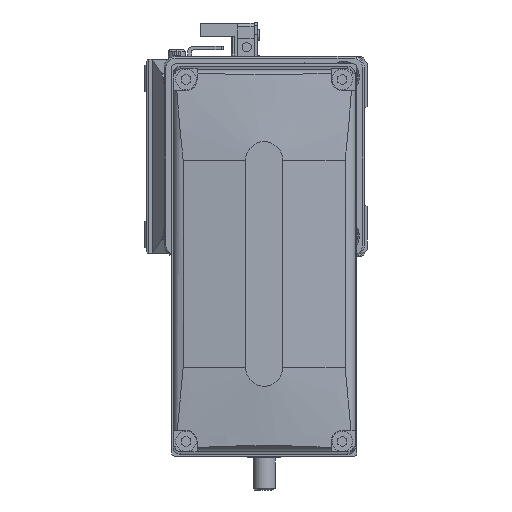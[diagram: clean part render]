
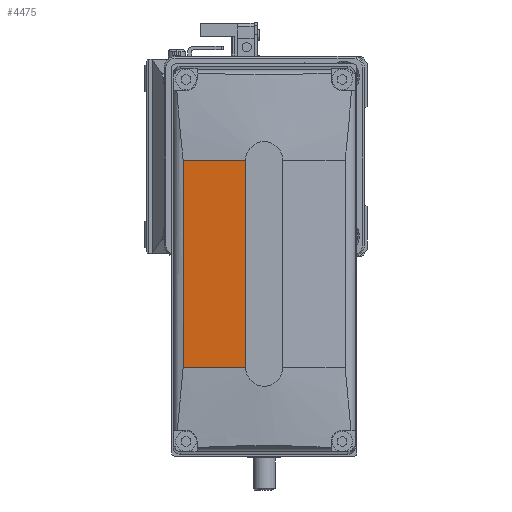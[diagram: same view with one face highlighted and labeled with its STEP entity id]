
A CAD part, left-side view. The second image highlights one B-rep face of the part: STEP entity #4475.
In plain terms, the highlighted planar face has unit normal (-0.996, 0.087, 0) as drawn and (-0.996, 0, -0.087) by its records, which use the part's own axes.
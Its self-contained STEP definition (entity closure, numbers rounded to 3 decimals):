
#2194 = VECTOR ( 'NONE', #20616, 1000. ) ;
#2811 = CARTESIAN_POINT ( 'NONE',  ( -50., 28., -5. ) ) ;
#4475 = ADVANCED_FACE ( 'NONE', ( #34968 ), #16455, .T. ) ;
#5145 = CARTESIAN_POINT ( 'NONE',  ( 43606.406, -28., -499000. ) ) ;
#5274 = CARTESIAN_POINT ( 'NONE',  ( -48.525, 128., -21.861 ) ) ;
#7022 = CARTESIAN_POINT ( 'NONE',  ( -48.525, -28., -21.861 ) ) ;
#7712 = VERTEX_POINT ( 'NONE', #2811 ) ;
#8351 = VERTEX_POINT ( 'NONE', #26308 ) ;
#9419 = CARTESIAN_POINT ( 'NONE',  ( 43606.406, 28., -499000. ) ) ;
#9874 = EDGE_CURVE ( 'NONE', #8351, #7712, #17949, .T. ) ;
#10710 = CARTESIAN_POINT ( 'NONE',  ( -50., 128., -5. ) ) ;
#11193 = DIRECTION ( 'NONE',  ( 0.087, 0., -0.996 ) ) ;
#11815 = LINE ( 'NONE', #5145, #16835 ) ;
#12115 = CARTESIAN_POINT ( 'NONE',  ( -50., -28., -5. ) ) ;
#16455 = PLANE ( 'NONE',  #36548 ) ;
#16835 = VECTOR ( 'NONE', #11193, 1000. ) ;
#17949 = LINE ( 'NONE', #9419, #36697 ) ;
#19907 = EDGE_CURVE ( 'NONE', #36833, #7712, #35184, .T. ) ;
#20616 = DIRECTION ( 'NONE',  ( 0., 1., 0. ) ) ;
#20637 = VERTEX_POINT ( 'NONE', #7022 ) ;
#21551 = EDGE_CURVE ( 'NONE', #36833, #20637, #11815, .T. ) ;
#21570 = EDGE_CURVE ( 'NONE', #20637, #8351, #29179, .T. ) ;
#22417 = DIRECTION ( 'NONE',  ( -0.996, 0., -0.087 ) ) ;
#23253 = DIRECTION ( 'NONE',  ( -0.087, 0., 0.996 ) ) ;
#24673 = ORIENTED_EDGE ( 'NONE', *, *, #21551, .F. ) ;
#25379 = ORIENTED_EDGE ( 'NONE', *, *, #9874, .F. ) ;
#26308 = CARTESIAN_POINT ( 'NONE',  ( -48.525, 28., -21.861 ) ) ;
#26752 = CARTESIAN_POINT ( 'NONE',  ( -50., 128., -5. ) ) ;
#27508 = ORIENTED_EDGE ( 'NONE', *, *, #19907, .T. ) ;
#29179 = LINE ( 'NONE', #5274, #34628 ) ;
#29822 = DIRECTION ( 'NONE',  ( -0.087, 0., 0.996 ) ) ;
#30280 = EDGE_LOOP ( 'NONE', ( #25379, #32659, #24673, #27508 ) ) ;
#32659 = ORIENTED_EDGE ( 'NONE', *, *, #21570, .F. ) ;
#34628 = VECTOR ( 'NONE', #37274, 1000. ) ;
#34968 = FACE_OUTER_BOUND ( 'NONE', #30280, .T. ) ;
#35184 = LINE ( 'NONE', #26752, #2194 ) ;
#36548 = AXIS2_PLACEMENT_3D ( 'NONE', #10710, #22417, #23253 ) ;
#36697 = VECTOR ( 'NONE', #29822, 1000. ) ;
#36833 = VERTEX_POINT ( 'NONE', #12115 ) ;
#37274 = DIRECTION ( 'NONE',  ( 0., 1., 0. ) ) ;
